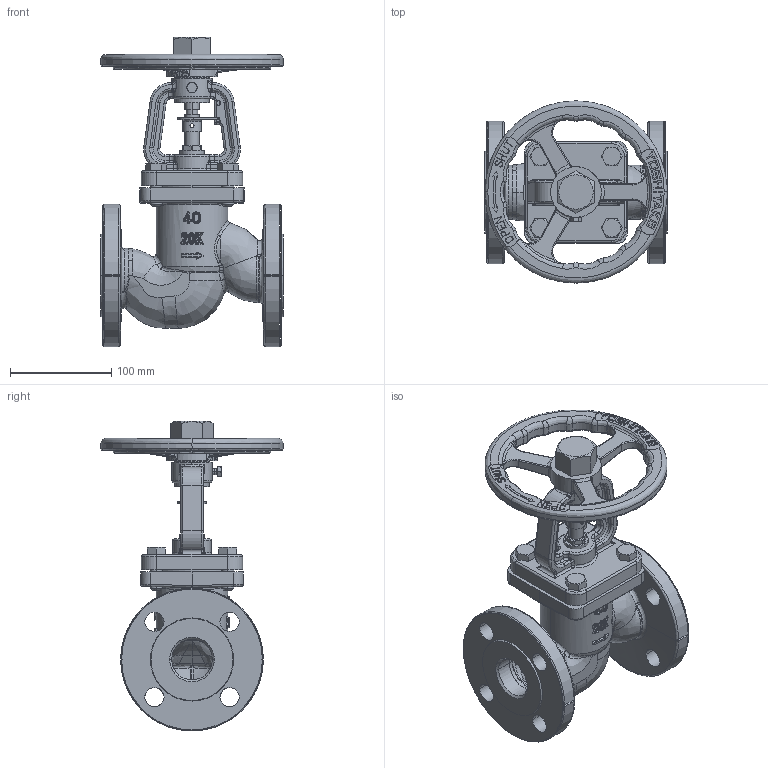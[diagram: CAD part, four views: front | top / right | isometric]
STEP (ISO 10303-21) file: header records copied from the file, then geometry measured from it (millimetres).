
FILE_DESCRIPTION( (''), '2;1');
FILE_NAME ('PC1027.9568.BSV-20F 40A_26332.stp','2025-07-28T09:39:36',(''),(''),'spGate 19.8.4 (****-****-****-****)','','');
FILE_SCHEMA (('AUTOMOTIVE_DESIGN'));
Length unit declared in the file: millimetre
Products named in the file (12): Assembly; ボンネット40-50A; グランドナット40-50A; スリーブワッシャー40-80A; スリーブ40-50A; 弁棒40-50A; ストッパー40-50A; ハンドル40-50A; ハンドルナット40-80A; CP_''_JIS B 1180 呼び径六角ボルト''_17166; CP_''_JIS B 1180 呼び径六角ボ''_(1)_17166; 本体20K 40A
Assembly tree (15 placements, depth 2):
  Assembly
    ボンネット40-50A
    グランドナット40-50A
    スリーブワッシャー40-80A  x2
    スリーブ40-50A
    弁棒40-50A
    ストッパー40-50A
    ハンドル40-50A
    ハンドルナット40-80A
    CP_''_JIS B 1180 呼び径六角ボルト''_17166  x4
    CP_''_JIS B 1180 呼び径六角ボ''_(1)_17166
    本体20K 40A
Bounding box: 180 x 180 x 306 mm (x, y, z)
Volume: 1285401.9 mm3; surface area: 312448.3 mm2
Topology: 15 solids, 15 shells, 1890 faces, 4748 edges, 2823 vertices
Faces by surface type: bspline 969, cylinder 484, plane 428, sphere 9
Entity records: 124270 total; most frequent: CARTESIAN_POINT 54438, ORIENTED_EDGE 8908, COLOUR_RGB 6277, PRESENTATION_STYLE_ASSIGNMENT 6277, STYLED_ITEM 6277, DIRECTION 4989, EDGE_CURVE 4454, DRAUGHTING_PRE_DEFINED_CURVE_FONT 4454
